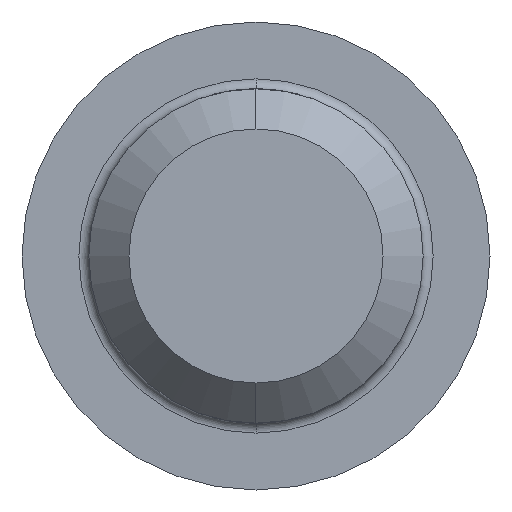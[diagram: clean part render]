
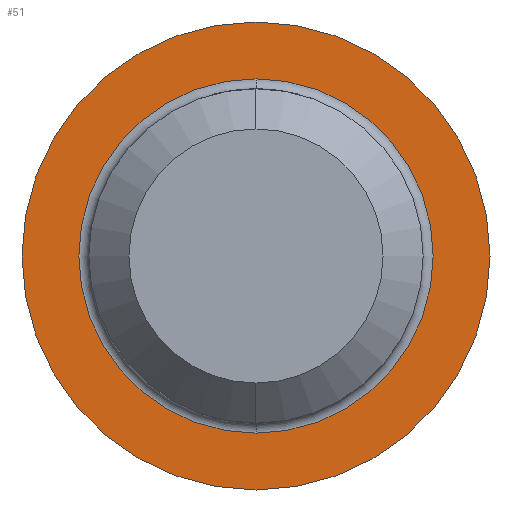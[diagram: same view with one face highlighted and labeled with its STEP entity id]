
A CAD part, left-side view. The second image highlights one B-rep face of the part: STEP entity #51.
In plain terms, the highlighted planar face has unit normal (-1, 0, 0).
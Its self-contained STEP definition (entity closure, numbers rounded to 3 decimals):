
#40 = EDGE_CURVE ( 'NONE', #147, #43, #349, .T. ) ;
#43 = VERTEX_POINT ( 'NONE', #361 ) ;
#51 = ADVANCED_FACE ( 'NONE', ( #238, #224 ), #375, .F. ) ;
#52 = ORIENTED_EDGE ( 'NONE', *, *, #160, .T. ) ;
#53 = ORIENTED_EDGE ( 'NONE', *, *, #138, .T. ) ;
#57 = ORIENTED_EDGE ( 'NONE', *, *, #139, .T. ) ;
#58 = EDGE_LOOP ( 'NONE', ( #78, #53 ) ) ;
#78 = ORIENTED_EDGE ( 'NONE', *, *, #40, .T. ) ;
#138 = EDGE_CURVE ( 'NONE', #43, #147, #457, .T. ) ;
#139 = EDGE_CURVE ( 'NONE', #157, #156, #504, .T. ) ;
#143 = EDGE_LOOP ( 'NONE', ( #57, #52 ) ) ;
#147 = VERTEX_POINT ( 'NONE', #496 ) ;
#156 = VERTEX_POINT ( 'NONE', #493 ) ;
#157 = VERTEX_POINT ( 'NONE', #516 ) ;
#160 = EDGE_CURVE ( 'NONE', #156, #157, #517, .T. ) ;
#184 = DIRECTION ( 'NONE',  ( 0., 0., 1. ) ) ;
#185 = DIRECTION ( 'NONE',  ( -1., 0., 0. ) ) ;
#224 = FACE_OUTER_BOUND ( 'NONE', #58, .T. ) ;
#226 = AXIS2_PLACEMENT_3D ( 'NONE', #235, #242, #241 ) ;
#235 = CARTESIAN_POINT ( 'NONE',  ( 0., 7., 0. ) ) ;
#238 = FACE_BOUND ( 'NONE', #143, .T. ) ;
#241 = DIRECTION ( 'NONE',  ( 0., 0., -1. ) ) ;
#242 = DIRECTION ( 'NONE',  ( 1., 0., 0. ) ) ;
#348 = CARTESIAN_POINT ( 'NONE',  ( 0., 0., 0. ) ) ;
#349 = CIRCLE ( 'NONE', #364, 7. ) ;
#361 = CARTESIAN_POINT ( 'NONE',  ( 0., 0., -7. ) ) ;
#364 = AXIS2_PLACEMENT_3D ( 'NONE', #348, #185, #184 ) ;
#375 = PLANE ( 'NONE',  #226 ) ;
#400 = DIRECTION ( 'NONE',  ( 0., 0., 1. ) ) ;
#455 = DIRECTION ( 'NONE',  ( -1., 0., 0. ) ) ;
#456 = AXIS2_PLACEMENT_3D ( 'NONE', #495, #455, #400 ) ;
#457 = CIRCLE ( 'NONE', #456, 7. ) ;
#482 = DIRECTION ( 'NONE',  ( 0., 0., -1. ) ) ;
#483 = DIRECTION ( 'NONE',  ( 1., 0., 0. ) ) ;
#484 = CARTESIAN_POINT ( 'NONE',  ( 0., 0., 0. ) ) ;
#487 = AXIS2_PLACEMENT_3D ( 'NONE', #484, #483, #482 ) ;
#493 = CARTESIAN_POINT ( 'NONE',  ( 0., 0., 5.3 ) ) ;
#495 = CARTESIAN_POINT ( 'NONE',  ( 0., 0., 0. ) ) ;
#496 = CARTESIAN_POINT ( 'NONE',  ( 0., 0., 7. ) ) ;
#498 = DIRECTION ( 'NONE',  ( 0., 0., -1. ) ) ;
#499 = DIRECTION ( 'NONE',  ( 1., 0., 0. ) ) ;
#500 = CARTESIAN_POINT ( 'NONE',  ( 0., 0., 0. ) ) ;
#501 = AXIS2_PLACEMENT_3D ( 'NONE', #500, #499, #498 ) ;
#504 = CIRCLE ( 'NONE', #501, 5.3 ) ;
#516 = CARTESIAN_POINT ( 'NONE',  ( 0., 0., -5.3 ) ) ;
#517 = CIRCLE ( 'NONE', #487, 5.3 ) ;
